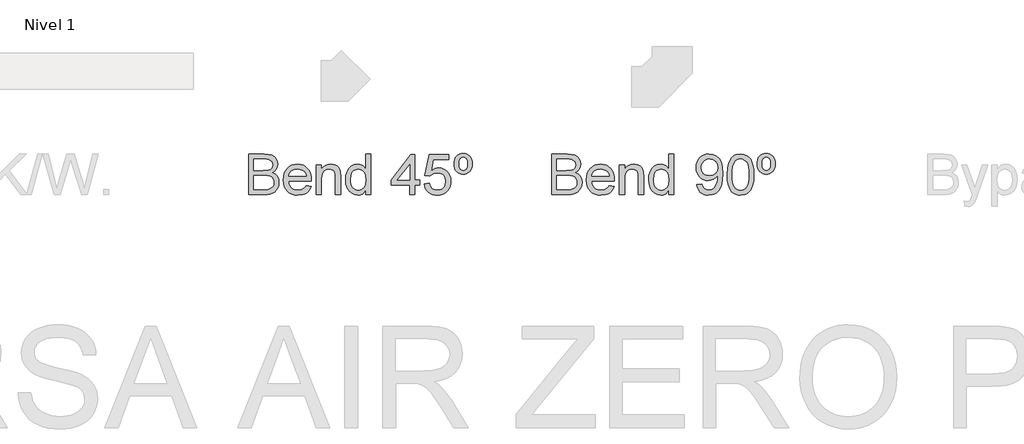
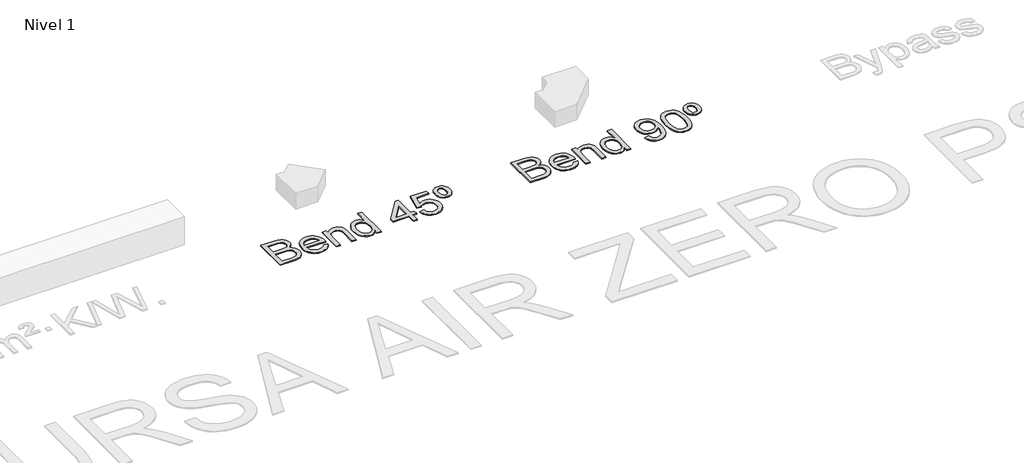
# One storey, part 3 of 7: 2 proxies.
"""IFC4 building model written with IfcOpenShell, lengths in millimetres."""

from ifc_helpers import new_model, si_unit, origin, origin_with_axes, place, context, project, spatial, polyline, outline, extrude, element, save

model = new_model("IFC4")

# Units and contexts
model_context = context("Model", 3, world=origin())
ifc_project = project(units=[si_unit("LENGTHUNIT", "METRE", prefix="MILLI")], contexts=[model_context])

# Site, building, storey
site = spatial("IfcSite", under=ifc_project)
building = spatial("IfcBuilding", under=site)
storey = spatial("IfcBuildingStorey", under=building, Name="Nivel 1", Elevation=0.0)

# Proxies
placement = place(None, origin())
element("IfcBuildingElementProxy", 1, Name="Texto de modelo 1", ObjectType="Texto de modelo 1", at=placement, inside=storey, context=model_context, shape_type="SweptSolid", body=[
    extrude(outline(polyline([(-13047.2257792, -4316.3248037), (-13047.2257792, -3914.4995631), (-12893.8925636, -3914.4995631), (-12851.7210242, -3917.4548818), (-12818.7955857, -3926.3208379), (-12793.5588808, -3941.3181605), (-12774.4535425, -3962.667579), (-12762.4238013, -3987.7816565), (-12758.4138875, -4014.0729565), (-12761.7861391, -4038.267329), (-12771.902894, -4061.014699), (-12788.8377285, -4080.917115), (-12812.6642191, -4096.5766252), (-12784.2024154, -4111.4390578), (-12763.171828, -4134.0515378), (-12750.1855936, -4162.9180117), (-12745.8568488, -4196.5424261), (-12748.8121674, -4224.5627714), (-12757.6781235, -4250.547503), (-12770.9096126, -4272.6449481), (-12786.9615303, -4289.0034342), (-12806.6186916, -4300.8492344), (-12830.6659114, -4309.4086222), (-12859.8880045, -4314.5957583), (-12895.069786, -4316.3248037), (-13047.2257792, -4316.3248037)]), holes=[polyline([(-12996.9976241, -4077.7410671), (-12905.27238, -4077.7410671), (-12851.7087615, -4073.424585), (-12832.9590425, -4065.981106), (-12819.4822987, -4054.8342815), (-12811.3521066, -4040.1557899), (-12808.6420426, -4022.1173094), (-12811.1681656, -4004.6061264), (-12818.7465347, -3989.3512864), (-12831.0337934, -3977.4441725), (-12847.686585, -3969.976168), (-12873.2421209, -3966.0398306), (-12912.2376124, -3964.7277182), (-12996.9976241, -3964.7277182), (-12996.9976241, -4077.7410671)]), polyline([(-12996.9976241, -4266.0966486), (-12893.9906655, -4266.0966486), (-12856.7119566, -4264.1346113), (-12825.1722069, -4253.1962533), (-12813.5961868, -4243.7662115), (-12804.2765096, -4230.8780789), (-12798.1328803, -4215.1082041), (-12796.0850038, -4197.0329354), (-12798.4884995, -4176.0391362), (-12805.6989866, -4157.988393), (-12818.2928136, -4143.8739871), (-12836.8463289, -4134.6891999), (-12863.1253661, -4129.6492166), (-12898.8957587, -4127.9692222), (-12996.9976241, -4127.9692222), (-12996.9976241, -4266.0966486)])]), origin_with_axes(), (0.0, 0.0, 1.0), 10.0),
    extrude(outline(polyline([(-12476.4691264, -4228.4255323), (-12427.22199, -4234.7040517), (-12434.7727679, -4254.428658), (-12444.9661649, -4271.8110823), (-12457.8021808, -4286.8513245), (-12473.2808158, -4299.5493847), (-12491.2426542, -4309.6354827), (-12511.5282806, -4316.8398385), (-12559.0708971, -4322.6033231), (-12590.2366334, -4320.1170539), (-12618.0055927, -4312.6582465), (-12642.3777749, -4300.2269007), (-12663.35318, -4282.8230167), (-12680.2205694, -4260.9309723), (-12692.2687048, -4235.0351455), (-12699.497586, -4205.1355363), (-12701.9072131, -4171.2321448), (-12699.4730605, -4136.179122), (-12692.1706029, -4105.2831658), (-12679.9998402, -4078.5442761), (-12662.9607725, -4055.962453), (-12642.0405497, -4038.0220743), (-12618.2263219, -4025.2075182), (-12591.518089, -4017.5187845), (-12561.9158512, -4014.9558732), (-12533.2670408, -4017.5126531), (-12507.3589513, -4025.1829927), (-12484.1915826, -4037.966892), (-12463.7649348, -4055.8643511), (-12447.0906834, -4078.3971233), (-12435.1805038, -4105.0869621), (-12428.0343961, -4135.9338674), (-12425.6523601, -4170.9378392), (-12425.9466657, -4184.4758966), (-12651.679058, -4184.4758966), (-12648.7697245, -4204.519334), (-12642.9847802, -4222.0734365), (-12634.3242249, -4237.1382042), (-12622.7880586, -4249.7136371), (-12609.0139436, -4259.6280569), (-12593.6395419, -4266.7097853), (-12558.0898784, -4272.375168), (-12531.3571201, -4269.7509431), (-12508.842742, -4261.8782684), (-12490.5467441, -4248.2666346), (-12476.4691264, -4228.4255323)]), holes=[polyline([(-12651.679058, -4134.2477415), (-12475.8805152, -4134.2477415), (-12482.6740694, -4107.711187), (-12495.9913976, -4088.728476), (-12509.6888706, -4078.4277801), (-12525.2748044, -4071.0701402), (-12542.7491992, -4066.6555563), (-12562.1120549, -4065.1840283), (-12595.9694612, -4069.8806551), (-12623.965281, -4083.9705355), (-12643.4262386, -4105.9330907), (-12651.679058, -4134.2477415)])]), origin_with_axes(), (0.0, 0.0, 1.0), 10.0),
    extrude(outline(polyline([(-12375.4242051, -4316.3248037), (-12375.4242051, -4021.2343926), (-12325.19605, -4021.2343926), (-12325.19605, -4062.4371761), (-12307.7461807, -4041.6641061), (-12286.7891697, -4026.826199), (-12262.325017, -4017.9234547), (-12234.3537227, -4014.9558732), (-12209.5952644, -4017.3471062), (-12186.9214707, -4024.5208051), (-12168.0123362, -4035.5817904), (-12154.5478552, -4049.6348827), (-12145.412119, -4066.6432936), (-12139.4892188, -4086.570235), (-12136.8404685, -4135.1306583), (-12136.8404685, -4316.3248037), (-12187.0686235, -4316.3248037), (-12187.0686235, -4141.899687), (-12188.5156261, -4115.9272182), (-12192.8566336, -4097.459542), (-12200.8641984, -4084.2280529), (-12213.3108725, -4073.9641453), (-12229.2646884, -4067.3790576), (-12247.7936782, -4065.1840283), (-12277.2119751, -4070.1136471), (-12302.2892644, -4084.9025033), (-12312.3109831, -4096.9751641), (-12319.4693536, -4113.4746716), (-12323.7643759, -4134.4010257), (-12325.19605, -4159.7542265), (-12325.19605, -4316.3248037), (-12375.4242051, -4316.3248037)])), origin_with_axes(), (0.0, 0.0, 1.0), 10.0),
    extrude(outline(polyline([(-11885.6996931, -4316.3248037), (-11885.6996931, -4268.9416027), (-11900.7276726, -4292.4186054), (-11918.9317, -4309.187893), (-11940.3117753, -4319.2494656), (-11964.8678985, -4322.6033231), (-11997.3396159, -4317.7472807), (-12027.0644811, -4303.1791537), (-12052.2276096, -4279.9167489), (-12071.0141168, -4248.9778731), (-12082.7127642, -4211.6133251), (-12086.6123134, -4169.0739038), (-12083.0193326, -4127.0617799), (-12072.2403901, -4089.1208835), (-12054.2877488, -4057.4094555), (-12029.1736712, -4034.085737), (-11998.7988811, -4019.7383392), (-11965.0641022, -4014.9558732), (-11940.4895849, -4018.3771758), (-11918.7600217, -4028.6410835), (-11900.3413965, -4044.3741701), (-11885.6996931, -4064.2030097), (-11885.6996931, -3914.4995631), (-11835.471538, -3914.4995631), (-11835.471538, -4316.3248037), (-11885.6996931, -4316.3248037)]), holes=[polyline([(-12036.3841583, -4168.8777), (-12034.9678126, -4193.2345538), (-12030.7187756, -4214.3111264), (-12023.6370472, -4232.1074179), (-12013.7226274, -4246.6234283), (-11989.0254828, -4265.9372331), (-11975.1502002, -4270.7656843), (-11960.2571108, -4272.375168), (-11945.2935106, -4270.8392607), (-11931.5010015, -4266.2315387), (-11907.4292563, -4247.8006507), (-11897.9225724, -4233.8916456), (-11891.1320839, -4216.7391476), (-11885.6996931, -4172.7036728), (-11891.2301858, -4124.5601823), (-11898.1433016, -4106.0250612), (-11907.8216637, -4091.1810226), (-11919.5233769, -4079.8073376), (-11932.5065456, -4071.6832769), (-11946.77117, -4066.8088405), (-11962.31725, -4065.1840283), (-11977.504645, -4066.7444611), (-11991.3799276, -4071.4257595), (-12003.9430977, -4079.2279235), (-12015.1941554, -4090.1509531), (-12024.4647817, -4104.4339715), (-12031.0866576, -4122.3161022), (-12036.3841583, -4168.8777)])]), origin_with_axes(), (0.0, 0.0, 1.0), 10.0),
    extrude(outline(polyline([(-11452.4818556, -4316.3248037), (-11452.4818556, -4222.1470129), (-11634.5589177, -4222.1470129), (-11634.5589177, -4171.9188579), (-11439.9248168, -3920.7780825), (-11402.2537005, -3920.7780825), (-11402.2537005, -4171.9188579), (-11352.0255454, -4171.9188579), (-11352.0255454, -4222.1470129), (-11402.2537005, -4222.1470129), (-11402.2537005, -4316.3248037), (-11452.4818556, -4316.3248037)]), holes=[polyline([(-11452.4818556, -4171.9188579), (-11452.4818556, -4016.7217068), (-11572.7547425, -4171.9188579), (-11452.4818556, -4171.9188579)])]), origin_with_axes(), (0.0, 0.0, 1.0), 10.0),
    extrude(outline(polyline([(-11308.0759097, -4209.5899742), (-11257.8477547, -4203.3114548), (-11248.6261793, -4233.4655156), (-11232.5374734, -4255.0601888), (-11209.6552133, -4268.0464232), (-11180.0529754, -4272.375168), (-11160.9231117, -4270.8699175), (-11144.0495908, -4266.354166), (-11129.4324129, -4258.8279135), (-11117.0715778, -4248.2911601), (-11107.2429972, -4235.2650717), (-11100.2225825, -4220.2708148), (-11094.6062507, -4184.3777948), (-11099.8669632, -4150.5817021), (-11106.4428539, -4136.6635), (-11115.6491008, -4124.7318606), (-11127.5163608, -4115.1607974), (-11142.0752908, -4108.3243236), (-11179.2681605, -4102.8551446), (-11203.6342113, -4105.0379111), (-11223.364949, -4111.5862106), (-11239.1225611, -4121.6171264), (-11251.5692353, -4134.2477415), (-11301.7973903, -4127.9692222), (-11257.8477547, -3920.7780825), (-11063.2136537, -3920.7780825), (-11063.2136537, -3971.0062376), (-11217.2335824, -3971.0062376), (-11238.7178909, -4081.6651417), (-11220.9921101, -4068.9609501), (-11202.8371336, -4059.8865276), (-11184.2529615, -4054.4418741), (-11165.2395937, -4052.6269896), (-11140.7785067, -4054.8772011), (-11118.3101139, -4061.6278357), (-11097.8344152, -4072.8788934), (-11079.3514106, -4088.6303741), (-11064.0505853, -4107.9196534), (-11053.1214243, -4129.7841067), (-11046.5639278, -4154.2237339), (-11044.3780956, -4181.2385351), (-11046.3462643, -4207.2600549), (-11052.2507703, -4231.4666901), (-11062.0916137, -4253.8584409), (-11075.8687944, -4274.4353072), (-11096.7399662, -4295.5088141), (-11121.0937543, -4310.5613191), (-11148.9301586, -4319.5928221), (-11180.2491791, -4322.6033231), (-11206.1695314, -4320.6688769), (-11229.5821547, -4314.8655384), (-11250.4870491, -4305.1933077), (-11268.8842145, -4291.6521846), (-11284.1911712, -4274.9166195), (-11295.8254393, -4255.6610627), (-11303.7870188, -4233.8855143), (-11308.0759097, -4209.5899742)])), origin_with_axes(), (0.0, 0.0, 1.0), 10.0),
    extrude(outline(polyline([(-10921.9469676, -3908.2210437), (-10902.7619215, -3909.9439577), (-10885.4285482, -3915.1126998), (-10869.9468476, -3923.7272698), (-10856.3168197, -3935.7876679), (-10845.200652, -3950.8830924), (-10837.2605323, -3968.6027419), (-10832.4964605, -3988.9466162), (-10830.9084365, -4011.9147154), (-10832.5056575, -4034.7969755), (-10837.2973205, -4055.0795362), (-10845.2834255, -4072.7623974), (-10856.4639725, -4087.8455592), (-10870.1215915, -4099.9059573), (-10885.5389128, -4108.5205274), (-10902.7159363, -4113.6892694), (-10921.652662, -4115.4121834), (-10940.8469051, -4113.7229919), (-10958.2078696, -4108.6554174), (-10973.7355555, -4100.2094599), (-10987.4299627, -4088.3851195), (-10998.6105097, -4073.5441467), (-11006.5966147, -4056.0482921), (-11011.3882777, -4035.8975558), (-11012.9854987, -4013.0919378), (-11011.3974747, -3989.6088038), (-11006.6334029, -3968.8970474), (-10998.6932832, -3950.9566688), (-10987.5771155, -3935.7876679), (-10973.9470876, -3923.7272698), (-10958.465387, -3915.1126998), (-10941.1320136, -3909.9439577), (-10921.9469676, -3908.2210437)]), holes=[polyline([(-10921.9469676, -3945.89216), (-10938.5139201, -3949.754921), (-10951.52468, -3961.3432038), (-10959.9491777, -3981.6870781), (-10962.7573436, -4011.8166136), (-10959.9001268, -4041.394326), (-10951.3284763, -4061.8485649), (-10938.2686654, -4073.7679415), (-10921.9469676, -4077.7410671), (-10905.5026424, -4073.7679415), (-10892.467357, -4061.8485649), (-10883.969283, -4041.0509694), (-10881.1365916, -4010.4431874), (-10883.9938084, -3981.7116036), (-10892.5654589, -3961.6375094), (-10905.6252697, -3949.8284974), (-10921.9469676, -3945.89216)])]), origin_with_axes(), (0.0, 0.0, 1.0), 10.0),
])
element("IfcBuildingElementProxy", 2, Name="Texto de modelo 1", ObjectType="Texto de modelo 1", at=placement, inside=storey, context=model_context, shape_type="SweptSolid", body=[
    extrude(outline(polyline([(-10047.2257792, -4316.3248037), (-10047.2257792, -3914.4995631), (-9893.8925636, -3914.4995631), (-9851.7210242, -3917.4548818), (-9818.7955857, -3926.3208379), (-9793.5588808, -3941.3181605), (-9774.4535425, -3962.667579), (-9762.4238013, -3987.7816565), (-9758.4138875, -4014.0729565), (-9761.7861391, -4038.267329), (-9771.902894, -4061.014699), (-9788.8377285, -4080.917115), (-9812.6642191, -4096.5766252), (-9784.2024154, -4111.4390578), (-9763.171828, -4134.0515378), (-9750.1855936, -4162.9180117), (-9745.8568488, -4196.5424261), (-9748.8121674, -4224.5627714), (-9757.6781235, -4250.547503), (-9770.9096126, -4272.6449481), (-9786.9615303, -4289.0034342), (-9806.6186916, -4300.8492344), (-9830.6659114, -4309.4086222), (-9859.8880045, -4314.5957583), (-9895.069786, -4316.3248037), (-10047.2257792, -4316.3248037)]), holes=[polyline([(-9996.9976241, -4077.7410671), (-9905.27238, -4077.7410671), (-9851.7087615, -4073.424585), (-9832.9590425, -4065.981106), (-9819.4822987, -4054.8342815), (-9811.3521066, -4040.1557899), (-9808.6420426, -4022.1173094), (-9811.1681656, -4004.6061264), (-9818.7465347, -3989.3512864), (-9831.0337934, -3977.4441725), (-9847.686585, -3969.976168), (-9873.2421209, -3966.0398306), (-9912.2376124, -3964.7277182), (-9996.9976241, -3964.7277182), (-9996.9976241, -4077.7410671)]), polyline([(-9996.9976241, -4266.0966486), (-9893.9906655, -4266.0966486), (-9856.7119566, -4264.1346113), (-9825.1722069, -4253.1962533), (-9813.5961868, -4243.7662115), (-9804.2765096, -4230.8780789), (-9798.1328803, -4215.1082041), (-9796.0850038, -4197.0329354), (-9798.4884995, -4176.0391362), (-9805.6989866, -4157.988393), (-9818.2928136, -4143.8739871), (-9836.8463289, -4134.6891999), (-9863.1253661, -4129.6492166), (-9898.8957587, -4127.9692222), (-9996.9976241, -4127.9692222), (-9996.9976241, -4266.0966486)])]), origin_with_axes(), (0.0, 0.0, 1.0), 10.0),
    extrude(outline(polyline([(-9476.4691264, -4228.4255323), (-9427.22199, -4234.7040517), (-9434.7727679, -4254.428658), (-9444.9661649, -4271.8110823), (-9457.8021808, -4286.8513245), (-9473.2808158, -4299.5493847), (-9491.2426542, -4309.6354827), (-9511.5282806, -4316.8398385), (-9559.0708971, -4322.6033231), (-9590.2366334, -4320.1170539), (-9618.0055927, -4312.6582465), (-9642.3777749, -4300.2269007), (-9663.35318, -4282.8230167), (-9680.2205694, -4260.9309723), (-9692.2687048, -4235.0351455), (-9699.497586, -4205.1355363), (-9701.9072131, -4171.2321448), (-9699.4730605, -4136.179122), (-9692.1706029, -4105.2831658), (-9679.9998402, -4078.5442761), (-9662.9607725, -4055.962453), (-9642.0405497, -4038.0220743), (-9618.2263219, -4025.2075182), (-9591.518089, -4017.5187845), (-9561.9158512, -4014.9558732), (-9533.2670408, -4017.5126531), (-9507.3589513, -4025.1829927), (-9484.1915826, -4037.966892), (-9463.7649348, -4055.8643511), (-9447.0906834, -4078.3971233), (-9435.1805038, -4105.0869621), (-9428.0343961, -4135.9338674), (-9425.6523601, -4170.9378392), (-9425.9466657, -4184.4758966), (-9651.679058, -4184.4758966), (-9648.7697245, -4204.519334), (-9642.9847802, -4222.0734365), (-9634.3242249, -4237.1382042), (-9622.7880586, -4249.7136371), (-9609.0139436, -4259.6280569), (-9593.6395419, -4266.7097853), (-9558.0898784, -4272.375168), (-9531.3571201, -4269.7509431), (-9508.842742, -4261.8782684), (-9490.5467441, -4248.2666346), (-9476.4691264, -4228.4255323)]), holes=[polyline([(-9651.679058, -4134.2477415), (-9475.8805152, -4134.2477415), (-9482.6740694, -4107.711187), (-9495.9913976, -4088.728476), (-9509.6888706, -4078.4277801), (-9525.2748044, -4071.0701402), (-9542.7491992, -4066.6555563), (-9562.1120549, -4065.1840283), (-9595.9694612, -4069.8806551), (-9623.965281, -4083.9705355), (-9643.4262386, -4105.9330907), (-9651.679058, -4134.2477415)])]), origin_with_axes(), (0.0, 0.0, 1.0), 10.0),
    extrude(outline(polyline([(-9375.4242051, -4316.3248037), (-9375.4242051, -4021.2343926), (-9325.19605, -4021.2343926), (-9325.19605, -4062.4371761), (-9307.7461807, -4041.6641061), (-9286.7891697, -4026.826199), (-9262.325017, -4017.9234547), (-9234.3537227, -4014.9558732), (-9209.5952644, -4017.3471062), (-9186.9214707, -4024.5208051), (-9168.0123362, -4035.5817904), (-9154.5478552, -4049.6348827), (-9145.412119, -4066.6432936), (-9139.4892188, -4086.570235), (-9136.8404685, -4135.1306583), (-9136.8404685, -4316.3248037), (-9187.0686235, -4316.3248037), (-9187.0686235, -4141.899687), (-9188.5156261, -4115.9272182), (-9192.8566336, -4097.459542), (-9200.8641984, -4084.2280529), (-9213.3108725, -4073.9641453), (-9229.2646884, -4067.3790576), (-9247.7936782, -4065.1840283), (-9277.2119751, -4070.1136471), (-9302.2892644, -4084.9025033), (-9312.3109831, -4096.9751641), (-9319.4693536, -4113.4746716), (-9323.7643759, -4134.4010257), (-9325.19605, -4159.7542265), (-9325.19605, -4316.3248037), (-9375.4242051, -4316.3248037)])), origin_with_axes(), (0.0, 0.0, 1.0), 10.0),
    extrude(outline(polyline([(-8885.6996931, -4316.3248037), (-8885.6996931, -4268.9416027), (-8900.7276726, -4292.4186054), (-8918.9317, -4309.187893), (-8940.3117753, -4319.2494656), (-8964.8678985, -4322.6033231), (-8997.3396159, -4317.7472807), (-9027.0644811, -4303.1791537), (-9052.2276096, -4279.9167489), (-9071.0141168, -4248.9778731), (-9082.7127642, -4211.6133251), (-9086.6123134, -4169.0739038), (-9083.0193326, -4127.0617799), (-9072.2403901, -4089.1208835), (-9054.2877488, -4057.4094555), (-9029.1736712, -4034.085737), (-8998.7988811, -4019.7383392), (-8965.0641022, -4014.9558732), (-8940.4895849, -4018.3771758), (-8918.7600217, -4028.6410835), (-8900.3413965, -4044.3741701), (-8885.6996931, -4064.2030097), (-8885.6996931, -3914.4995631), (-8835.471538, -3914.4995631), (-8835.471538, -4316.3248037), (-8885.6996931, -4316.3248037)]), holes=[polyline([(-9036.3841583, -4168.8777), (-9034.9678126, -4193.2345538), (-9030.7187756, -4214.3111264), (-9023.6370472, -4232.1074179), (-9013.7226274, -4246.6234283), (-8989.0254828, -4265.9372331), (-8975.1502002, -4270.7656843), (-8960.2571108, -4272.375168), (-8945.2935106, -4270.8392607), (-8931.5010015, -4266.2315387), (-8907.4292563, -4247.8006507), (-8897.9225724, -4233.8916456), (-8891.1320839, -4216.7391476), (-8885.6996931, -4172.7036728), (-8891.2301858, -4124.5601823), (-8898.1433016, -4106.0250612), (-8907.8216637, -4091.1810226), (-8919.5233769, -4079.8073376), (-8932.5065456, -4071.6832769), (-8946.77117, -4066.8088405), (-8962.31725, -4065.1840283), (-8977.504645, -4066.7444611), (-8991.3799276, -4071.4257595), (-9003.9430977, -4079.2279235), (-9015.1941554, -4090.1509531), (-9024.4647817, -4104.4339715), (-9031.0866576, -4122.3161022), (-9036.3841583, -4168.8777)])]), origin_with_axes(), (0.0, 0.0, 1.0), 10.0),
    extrude(outline(polyline([(-8609.4448402, -4215.8684935), (-8559.2166851, -4209.5899742), (-8550.6327719, -4238.1008288), (-8536.6532561, -4257.5127354), (-8517.6214942, -4268.6595599), (-8493.8808428, -4272.375168), (-8472.5804752, -4269.983935), (-8453.2176196, -4262.8102361), (-8437.1289136, -4251.6388862), (-8425.6509954, -4237.2547002), (-8409.2189329, -4193.5993701), (-8403.7742794, -4165.1988801), (-8401.9593949, -4135.3268621), (-8402.2537005, -4125.5166755), (-8419.6545189, -4146.7557294), (-8442.4264144, -4163.5801993), (-8468.9261808, -4174.5430828), (-8497.5106118, -4178.1973772), (-8521.3708249, -4175.9655598), (-8543.3119202, -4169.2701075), (-8563.3338978, -4158.1110203), (-8581.4367576, -4142.4882982), (-8596.437146, -4123.2174131), (-8607.1517091, -4101.1138365), (-8613.5804469, -4076.1775686), (-8615.7233596, -4048.4086093), (-8613.4762137, -4019.7138137), (-8606.7347762, -3993.9620741), (-8595.4990469, -3971.1533904), (-8579.7690259, -3951.2877626), (-8560.6544906, -3935.1929253), (-8539.2652182, -3923.696613), (-8515.6012089, -3916.7988256), (-8489.6624626, -3914.4995631), (-8452.1998127, -3919.7480129), (-8418.0971518, -3935.4933623), (-8389.5740344, -3960.9507964), (-8368.8500153, -3995.3355002), (-8356.2316629, -4042.8658539), (-8352.0255454, -4107.7602379), (-8356.2194002, -4176.5664337), (-8368.8009644, -4229.7499075), (-8389.6598735, -4269.7141549), (-8403.1519457, -4285.6403796), (-8418.685763, -4298.8626717), (-8435.9486256, -4309.2492067), (-8454.6278339, -4316.6681602), (-8496.2352875, -4322.6033231), (-8518.7925852, -4320.8528179), (-8539.1793791, -4315.6013024), (-8557.3956692, -4306.8487766), (-8573.4414556, -4294.5952405), (-8586.912068, -4279.1717879), (-8597.4028362, -4260.9095125), (-8604.9137603, -4239.8084144), (-8609.4448402, -4215.8684935)]), holes=[polyline([(-8402.2537005, -4047.231387), (-8407.6738286, -4013.1900397), (-8414.4489886, -3999.112422), (-8423.9342127, -3986.9968416), (-8435.663517, -3977.2541001), (-8449.1709176, -3970.294999), (-8481.5200077, -3964.7277182), (-8499.1292926, -3966.2268373), (-8515.0708457, -3970.7241947), (-8529.3446671, -3978.2197903), (-8541.9507568, -3988.7136243), (-8552.2514527, -4001.5925598), (-8559.6090926, -4016.2434602), (-8564.0236765, -4032.6663256), (-8565.4952045, -4050.861156), (-8559.9279236, -4081.8981336), (-8552.9688226, -4095.0161924), (-8543.2260811, -4106.5339646), (-8531.1043693, -4115.9118898), (-8517.0083575, -4122.6104078), (-8482.8934338, -4127.9692222), (-8450.8018611, -4122.6104078), (-8424.9642823, -4106.5339646), (-8415.0284028, -4094.7893319), (-8407.931346, -4080.9906914), (-8402.2537005, -4047.231387)])]), origin_with_axes(), (0.0, 0.0, 1.0), 10.0),
    extrude(outline(polyline([(-8308.0759097, -4118.649545), (-8304.384827, -4054.3315095), (-8293.311579, -4003.0364966), (-8274.9665302, -3963.9796914), (-8263.1084672, -3948.7463112), (-8249.4600452, -3936.3762791), (-8233.9752789, -3926.8052158), (-8216.608183, -3919.9687421), (-8176.2270027, -3914.4995631), (-8145.2758641, -3917.7369247), (-8117.5620872, -3927.4490093), (-8094.3855215, -3943.2556724), (-8077.0460168, -3964.7767691), (-8063.9494177, -3991.8283585), (-8053.5015691, -4024.2264995), (-8046.658964, -4065.3679693), (-8044.3780956, -4118.649545), (-8048.0323901, -4182.5996984), (-8058.9952735, -4233.772084), (-8077.2299578, -4272.8656773), (-8089.0604296, -4288.1450429), (-8102.6996546, -4300.5794543), (-8118.202815, -4310.2148969), (-8135.6250931, -4317.0973559), (-8176.2270027, -4322.6033231), (-8203.8917287, -4320.2120901), (-8228.417195, -4313.0383912), (-8249.8034017, -4301.0822264), (-8268.0503487, -4284.3435956), (-8285.5615316, -4254.0853015), (-8298.0695195, -4216.3835283), (-8305.5743122, -4171.2382762), (-8308.0759097, -4118.649545)]), holes=[polyline([(-8257.8477547, -4118.5514431), (-8256.3762267, -4162.2159702), (-8251.9616427, -4197.5602329), (-8244.6040028, -4224.5842311), (-8234.303307, -4243.2879649), (-8221.8443701, -4256.0136163), (-8208.012007, -4265.1033672), (-8192.8062179, -4270.5572178), (-8176.2270027, -4272.375168), (-8159.6477874, -4270.5510864), (-8144.4419983, -4265.0788418), (-8130.6096353, -4255.958434), (-8118.1506984, -4243.1898631), (-8107.8500025, -4224.4554724), (-8100.4923626, -4197.4376056), (-8096.0777786, -4162.1362625), (-8094.6062507, -4118.5514431), (-8096.0287277, -4076.0426785), (-8100.2961589, -4041.3207496), (-8107.4085441, -4014.3856562), (-8117.3658834, -3995.2373983), (-8129.6163539, -3981.8894132), (-8143.6081324, -3972.3551382), (-8159.3412191, -3966.6345732), (-8176.8156139, -3964.7277182), (-8193.30899, -3966.4077126), (-8208.2572617, -3971.4476959), (-8221.6604291, -3979.8476682), (-8233.518492, -3991.6076293), (-8244.1625444, -4012.4542757), (-8251.765439, -4040.5604601), (-8256.3271757, -4075.9261826), (-8257.8477547, -4118.5514431)])]), origin_with_axes(), (0.0, 0.0, 1.0), 10.0),
    extrude(outline(polyline([(-7921.9469676, -3908.2210437), (-7902.7619215, -3909.9439577), (-7885.4285482, -3915.1126998), (-7869.9468476, -3923.7272698), (-7856.3168197, -3935.7876679), (-7845.200652, -3950.8830924), (-7837.2605323, -3968.6027419), (-7832.4964605, -3988.9466162), (-7830.9084365, -4011.9147154), (-7832.5056575, -4034.7969755), (-7837.2973205, -4055.0795362), (-7845.2834255, -4072.7623974), (-7856.4639725, -4087.8455592), (-7870.1215915, -4099.9059573), (-7885.5389128, -4108.5205274), (-7902.7159363, -4113.6892694), (-7921.652662, -4115.4121834), (-7940.8469051, -4113.7229919), (-7958.2078696, -4108.6554174), (-7973.7355555, -4100.2094599), (-7987.4299627, -4088.3851195), (-7998.6105097, -4073.5441467), (-8006.5966147, -4056.0482921), (-8011.3882777, -4035.8975558), (-8012.9854987, -4013.0919378), (-8011.3974747, -3989.6088038), (-8006.6334029, -3968.8970474), (-7998.6932832, -3950.9566688), (-7987.5771155, -3935.7876679), (-7973.9470876, -3923.7272698), (-7958.465387, -3915.1126998), (-7941.1320136, -3909.9439577), (-7921.9469676, -3908.2210437)]), holes=[polyline([(-7921.9469676, -3945.89216), (-7938.5139201, -3949.754921), (-7951.52468, -3961.3432038), (-7959.9491777, -3981.6870781), (-7962.7573436, -4011.8166136), (-7959.9001268, -4041.394326), (-7951.3284763, -4061.8485649), (-7938.2686654, -4073.7679415), (-7921.9469676, -4077.7410671), (-7905.5026424, -4073.7679415), (-7892.467357, -4061.8485649), (-7883.969283, -4041.0509694), (-7881.1365916, -4010.4431874), (-7883.9938084, -3981.7116036), (-7892.5654589, -3961.6375094), (-7905.6252697, -3949.8284974), (-7921.9469676, -3945.89216)])]), origin_with_axes(), (0.0, 0.0, 1.0), 10.0),
])

save(model, "model.ifc")
